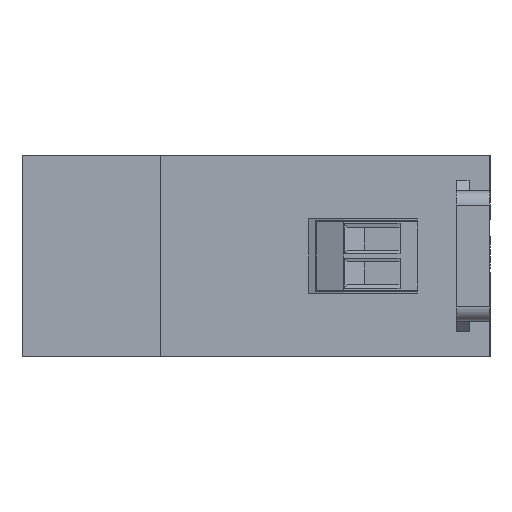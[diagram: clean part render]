
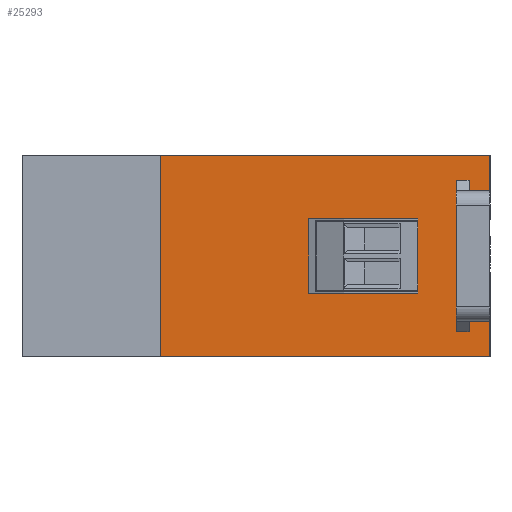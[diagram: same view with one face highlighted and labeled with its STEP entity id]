
A CAD part, front view. The second image highlights one B-rep face of the part: STEP entity #25293.
In plain terms, the highlighted planar face has unit normal (0, -1, 0).
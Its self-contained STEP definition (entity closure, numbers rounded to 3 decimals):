
#135 = VECTOR ( 'NONE', #9898, 1000. ) ;
#317 = ORIENTED_EDGE ( 'NONE', *, *, #7053, .F. ) ;
#487 = EDGE_CURVE ( 'NONE', #16072, #22008, #18836, .T. ) ;
#622 = LINE ( 'NONE', #33124, #2771 ) ;
#1494 = LINE ( 'NONE', #12451, #6454 ) ;
#1853 = CARTESIAN_POINT ( 'NONE',  ( 42.512, -45., 5.15 ) ) ;
#1879 = VERTEX_POINT ( 'NONE', #16474 ) ;
#1903 = DIRECTION ( 'NONE',  ( 0., 0., -1. ) ) ;
#2191 = DIRECTION ( 'NONE',  ( 0., 0., -1. ) ) ;
#2448 = ORIENTED_EDGE ( 'NONE', *, *, #9226, .F. ) ;
#2771 = VECTOR ( 'NONE', #30800, 1000. ) ;
#2879 = CARTESIAN_POINT ( 'NONE',  ( 51.149, -45., 5.15 ) ) ;
#2914 = EDGE_CURVE ( 'NONE', #9625, #20848, #16788, .T. ) ;
#3114 = CARTESIAN_POINT ( 'NONE',  ( 42.512, -45., -5.15 ) ) ;
#3468 = CARTESIAN_POINT ( 'NONE',  ( 24.351, -45., 9.1 ) ) ;
#3876 = EDGE_CURVE ( 'NONE', #26581, #1879, #32897, .T. ) ;
#3964 = DIRECTION ( 'NONE',  ( 0., 0., -1. ) ) ;
#4438 = LINE ( 'NONE', #20599, #7990 ) ;
#4700 = VECTOR ( 'NONE', #26054, 1000. ) ;
#6226 = CARTESIAN_POINT ( 'NONE',  ( 60.3, -45., 10.5 ) ) ;
#6432 = VECTOR ( 'NONE', #11046, 1000. ) ;
#6454 = VECTOR ( 'NONE', #31502, 1000. ) ;
#6493 = ORIENTED_EDGE ( 'NONE', *, *, #15964, .F. ) ;
#7053 = EDGE_CURVE ( 'NONE', #16415, #22961, #14287, .T. ) ;
#7359 = VECTOR ( 'NONE', #22854, 1000. ) ;
#7425 = LINE ( 'NONE', #28797, #19694 ) ;
#7534 = DIRECTION ( 'NONE',  ( 0., 0., 1. ) ) ;
#7990 = VECTOR ( 'NONE', #1903, 1000. ) ;
#8607 = VERTEX_POINT ( 'NONE', #24487 ) ;
#8925 = VECTOR ( 'NONE', #25448, 1000. ) ;
#9166 = ORIENTED_EDGE ( 'NONE', *, *, #20844, .F. ) ;
#9226 = EDGE_CURVE ( 'NONE', #35295, #9625, #15280, .T. ) ;
#9625 = VERTEX_POINT ( 'NONE', #12271 ) ;
#9898 = DIRECTION ( 'NONE',  ( 1., 0., 0. ) ) ;
#10034 = VERTEX_POINT ( 'NONE', #35000 ) ;
#10641 = EDGE_CURVE ( 'NONE', #35166, #10034, #33711, .T. ) ;
#11046 = DIRECTION ( 'NONE',  ( 0., 0., -1. ) ) ;
#11581 = DIRECTION ( 'NONE',  ( -1., 0., 0. ) ) ;
#11592 = DIRECTION ( 'NONE',  ( -1., 0., 0. ) ) ;
#11647 = AXIS2_PLACEMENT_3D ( 'NONE', #17673, #20202, #24921 ) ;
#11753 = CARTESIAN_POINT ( 'NONE',  ( 39.8, -45., 5.15 ) ) ;
#12271 = CARTESIAN_POINT ( 'NONE',  ( 60.3, -45., -10.5 ) ) ;
#12337 = EDGE_LOOP ( 'NONE', ( #27516, #16146, #22572, #33738, #13699, #19038, #18054, #29647, #2448, #9166, #6493, #17157, #27817, #19334 ) ) ;
#12451 = CARTESIAN_POINT ( 'NONE',  ( 19.2, -45., 14. ) ) ;
#12583 = CARTESIAN_POINT ( 'NONE',  ( 24.351, -45., -9.1 ) ) ;
#12749 = EDGE_LOOP ( 'NONE', ( #317, #29188, #16117, #22621 ) ) ;
#12764 = LINE ( 'NONE', #12583, #4700 ) ;
#12770 = LINE ( 'NONE', #16173, #135 ) ;
#12925 = CARTESIAN_POINT ( 'NONE',  ( 60.3, -45., 10.5 ) ) ;
#13699 = ORIENTED_EDGE ( 'NONE', *, *, #18685, .F. ) ;
#13701 = CARTESIAN_POINT ( 'NONE',  ( 60.3, -45., 9.05 ) ) ;
#13988 = FACE_BOUND ( 'NONE', #12749, .T. ) ;
#14287 = LINE ( 'NONE', #11753, #25988 ) ;
#14332 = CARTESIAN_POINT ( 'NONE',  ( 19.2, -45., 14. ) ) ;
#14816 = LINE ( 'NONE', #6226, #21187 ) ;
#15084 = LINE ( 'NONE', #17590, #30353 ) ;
#15280 = LINE ( 'NONE', #23155, #26609 ) ;
#15883 = EDGE_CURVE ( 'NONE', #20848, #30202, #622, .T. ) ;
#15964 = EDGE_CURVE ( 'NONE', #20981, #27771, #25562, .T. ) ;
#16072 = VERTEX_POINT ( 'NONE', #18905 ) ;
#16117 = ORIENTED_EDGE ( 'NONE', *, *, #25486, .F. ) ;
#16143 = CARTESIAN_POINT ( 'NONE',  ( 62.1, -45., 10.5 ) ) ;
#16146 = ORIENTED_EDGE ( 'NONE', *, *, #24628, .F. ) ;
#16173 = CARTESIAN_POINT ( 'NONE',  ( 19.2, -45., -14. ) ) ;
#16415 = VERTEX_POINT ( 'NONE', #2879 ) ;
#16474 = CARTESIAN_POINT ( 'NONE',  ( 65., -45., 9.1 ) ) ;
#16788 = LINE ( 'NONE', #17128, #17637 ) ;
#17128 = CARTESIAN_POINT ( 'NONE',  ( 60.3, -45., -10.5 ) ) ;
#17157 = ORIENTED_EDGE ( 'NONE', *, *, #19356, .F. ) ;
#17590 = CARTESIAN_POINT ( 'NONE',  ( 65., -45., 14. ) ) ;
#17637 = VECTOR ( 'NONE', #22325, 1000. ) ;
#17673 = CARTESIAN_POINT ( 'NONE',  ( 19.2, -45., 14. ) ) ;
#18054 = ORIENTED_EDGE ( 'NONE', *, *, #15883, .F. ) ;
#18315 = DIRECTION ( 'NONE',  ( 0., 0., -1. ) ) ;
#18685 = EDGE_CURVE ( 'NONE', #25682, #8607, #15084, .T. ) ;
#18836 = LINE ( 'NONE', #16143, #27294 ) ;
#18905 = CARTESIAN_POINT ( 'NONE',  ( 62.1, -45., 9.1 ) ) ;
#19038 = ORIENTED_EDGE ( 'NONE', *, *, #21747, .F. ) ;
#19134 = EDGE_CURVE ( 'NONE', #22961, #32939, #4438, .T. ) ;
#19334 = ORIENTED_EDGE ( 'NONE', *, *, #20481, .T. ) ;
#19356 = EDGE_CURVE ( 'NONE', #22008, #20981, #14816, .T. ) ;
#19694 = VECTOR ( 'NONE', #26810, 1000. ) ;
#20116 = CARTESIAN_POINT ( 'NONE',  ( 62.1, -45., -9.1 ) ) ;
#20202 = DIRECTION ( 'NONE',  ( 0., 1., 0. ) ) ;
#20481 = EDGE_CURVE ( 'NONE', #16072, #1879, #30609, .T. ) ;
#20599 = CARTESIAN_POINT ( 'NONE',  ( 42.512, -45., 14. ) ) ;
#20815 = CARTESIAN_POINT ( 'NONE',  ( 60.3, -45., -9.05 ) ) ;
#20844 = EDGE_CURVE ( 'NONE', #27771, #35295, #26046, .T. ) ;
#20848 = VERTEX_POINT ( 'NONE', #34305 ) ;
#20981 = VERTEX_POINT ( 'NONE', #12925 ) ;
#21187 = VECTOR ( 'NONE', #11592, 1000. ) ;
#21747 = EDGE_CURVE ( 'NONE', #30202, #25682, #12764, .T. ) ;
#22008 = VERTEX_POINT ( 'NONE', #24042 ) ;
#22325 = DIRECTION ( 'NONE',  ( 1., 0., 0. ) ) ;
#22572 = ORIENTED_EDGE ( 'NONE', *, *, #10641, .T. ) ;
#22616 = DIRECTION ( 'NONE',  ( 0., 0., -1. ) ) ;
#22621 = ORIENTED_EDGE ( 'NONE', *, *, #19134, .F. ) ;
#22854 = DIRECTION ( 'NONE',  ( 0., 0., -1. ) ) ;
#22961 = VERTEX_POINT ( 'NONE', #1853 ) ;
#23155 = CARTESIAN_POINT ( 'NONE',  ( 60.3, -45., 9.1 ) ) ;
#23294 = VECTOR ( 'NONE', #2191, 1000. ) ;
#24042 = CARTESIAN_POINT ( 'NONE',  ( 62.1, -45., 10.5 ) ) ;
#24149 = CARTESIAN_POINT ( 'NONE',  ( 65., -45., 14. ) ) ;
#24315 = CARTESIAN_POINT ( 'NONE',  ( 51.149, -45., 14. ) ) ;
#24487 = CARTESIAN_POINT ( 'NONE',  ( 65., -45., -14. ) ) ;
#24628 = EDGE_CURVE ( 'NONE', #35166, #26581, #1494, .T. ) ;
#24737 = PLANE ( 'NONE',  #11647 ) ;
#24921 = DIRECTION ( 'NONE',  ( -1., 0., 0. ) ) ;
#25293 = ADVANCED_FACE ( 'NONE', ( #27802, #13988 ), #24737, .F. ) ;
#25448 = DIRECTION ( 'NONE',  ( 0., 0., -1. ) ) ;
#25486 = EDGE_CURVE ( 'NONE', #32939, #26204, #7425, .T. ) ;
#25562 = LINE ( 'NONE', #26264, #7359 ) ;
#25682 = VERTEX_POINT ( 'NONE', #33796 ) ;
#25988 = VECTOR ( 'NONE', #11581, 1000. ) ;
#26046 = LINE ( 'NONE', #31271, #35023 ) ;
#26054 = DIRECTION ( 'NONE',  ( 1., 0., 0. ) ) ;
#26204 = VERTEX_POINT ( 'NONE', #29970 ) ;
#26264 = CARTESIAN_POINT ( 'NONE',  ( 60.3, -45., 9.1 ) ) ;
#26581 = VERTEX_POINT ( 'NONE', #24149 ) ;
#26609 = VECTOR ( 'NONE', #18315, 1000. ) ;
#26810 = DIRECTION ( 'NONE',  ( 1., 0., 0. ) ) ;
#26969 = CARTESIAN_POINT ( 'NONE',  ( 65., -45., 14. ) ) ;
#27023 = VECTOR ( 'NONE', #30783, 1000. ) ;
#27294 = VECTOR ( 'NONE', #7534, 1000. ) ;
#27516 = ORIENTED_EDGE ( 'NONE', *, *, #3876, .F. ) ;
#27771 = VERTEX_POINT ( 'NONE', #13701 ) ;
#27802 = FACE_OUTER_BOUND ( 'NONE', #12337, .T. ) ;
#27817 = ORIENTED_EDGE ( 'NONE', *, *, #487, .F. ) ;
#28797 = CARTESIAN_POINT ( 'NONE',  ( 39.8, -45., -5.15 ) ) ;
#29188 = ORIENTED_EDGE ( 'NONE', *, *, #32483, .T. ) ;
#29647 = ORIENTED_EDGE ( 'NONE', *, *, #2914, .F. ) ;
#29726 = LINE ( 'NONE', #24315, #6432 ) ;
#29880 = EDGE_CURVE ( 'NONE', #10034, #8607, #12770, .T. ) ;
#29970 = CARTESIAN_POINT ( 'NONE',  ( 51.149, -45., -5.15 ) ) ;
#30202 = VERTEX_POINT ( 'NONE', #20116 ) ;
#30353 = VECTOR ( 'NONE', #22616, 1000. ) ;
#30390 = CARTESIAN_POINT ( 'NONE',  ( 19.2, -45., 14. ) ) ;
#30609 = LINE ( 'NONE', #3468, #27023 ) ;
#30783 = DIRECTION ( 'NONE',  ( 1., 0., 0. ) ) ;
#30800 = DIRECTION ( 'NONE',  ( 0., 0., 1. ) ) ;
#31271 = CARTESIAN_POINT ( 'NONE',  ( 60.3, -45., 9.1 ) ) ;
#31502 = DIRECTION ( 'NONE',  ( 1., 0., 0. ) ) ;
#32483 = EDGE_CURVE ( 'NONE', #16415, #26204, #29726, .T. ) ;
#32897 = LINE ( 'NONE', #26969, #23294 ) ;
#32939 = VERTEX_POINT ( 'NONE', #3114 ) ;
#33124 = CARTESIAN_POINT ( 'NONE',  ( 62.1, -45., 10.5 ) ) ;
#33711 = LINE ( 'NONE', #14332, #8925 ) ;
#33738 = ORIENTED_EDGE ( 'NONE', *, *, #29880, .T. ) ;
#33796 = CARTESIAN_POINT ( 'NONE',  ( 65., -45., -9.1 ) ) ;
#34305 = CARTESIAN_POINT ( 'NONE',  ( 62.1, -45., -10.5 ) ) ;
#35000 = CARTESIAN_POINT ( 'NONE',  ( 19.2, -45., -14. ) ) ;
#35023 = VECTOR ( 'NONE', #3964, 1000. ) ;
#35166 = VERTEX_POINT ( 'NONE', #30390 ) ;
#35295 = VERTEX_POINT ( 'NONE', #20815 ) ;
